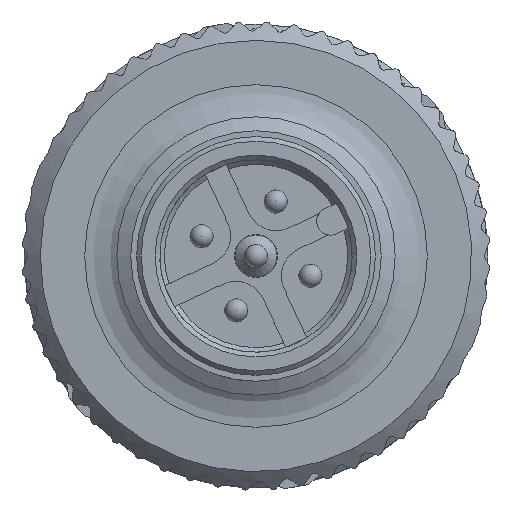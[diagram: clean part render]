
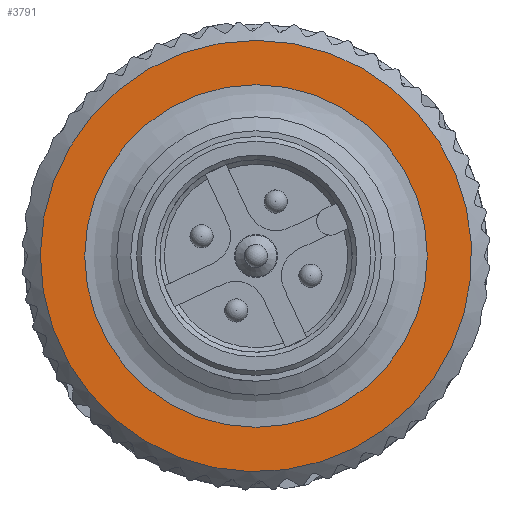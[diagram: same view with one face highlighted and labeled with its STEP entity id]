
A CAD part, left-side view. The second image highlights one B-rep face of the part: STEP entity #3791.
In plain terms, the highlighted planar face has unit normal (-1, 0, 0).
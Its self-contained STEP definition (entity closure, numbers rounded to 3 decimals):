
#3791=ADVANCED_FACE('',(#4491,#4492),#4291,.T.);
#4291=PLANE('',#13851);
#4491=FACE_BOUND('',#5102,.T.);
#4492=FACE_BOUND('',#5103,.T.);
#5102=EDGE_LOOP('',(#7666));
#5103=EDGE_LOOP('',(#7667));
#7666=ORIENTED_EDGE('',*,*,#11521,.T.);
#7667=ORIENTED_EDGE('',*,*,#11522,.T.);
#9870=VERTEX_POINT('',#21392);
#9871=VERTEX_POINT('',#21395);
#11521=EDGE_CURVE('',#9870,#9870,#12725,.T.);
#11522=EDGE_CURVE('',#9871,#9871,#12726,.T.);
#12725=CIRCLE('',#13848,7.387);
#12726=CIRCLE('',#13850,9.3);
#13848=AXIS2_PLACEMENT_3D('',#21391,#16514,#16515);
#13850=AXIS2_PLACEMENT_3D('',#21394,#16518,#16519);
#13851=AXIS2_PLACEMENT_3D('',#21396,#16520,#16521);
#16514=DIRECTION('',(1.,0.,0.));
#16515=DIRECTION('',(0.,-0.342,0.94));
#16518=DIRECTION('',(-1.,0.,0.));
#16519=DIRECTION('',(0.,-0.342,0.94));
#16520=DIRECTION('',(-1.,0.,0.));
#16521=DIRECTION('',(0.,-0.342,0.94));
#21391=CARTESIAN_POINT('',(-7.8,0.,0.));
#21392=CARTESIAN_POINT('',(-7.8,-2.526,6.941));
#21394=CARTESIAN_POINT('',(-7.8,0.,0.));
#21395=CARTESIAN_POINT('',(-7.8,-3.181,8.739));
#21396=CARTESIAN_POINT('',(-7.8,0.,0.));
